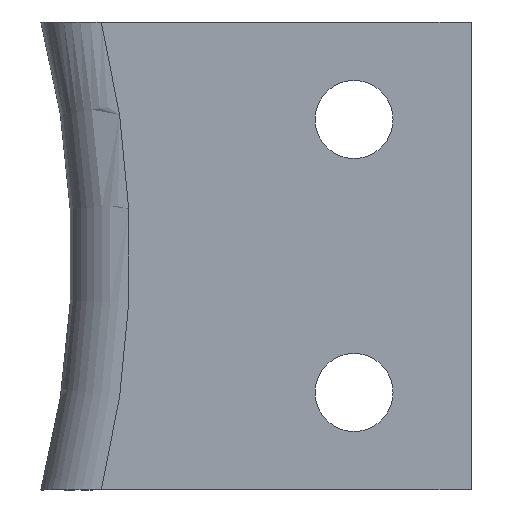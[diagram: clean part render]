
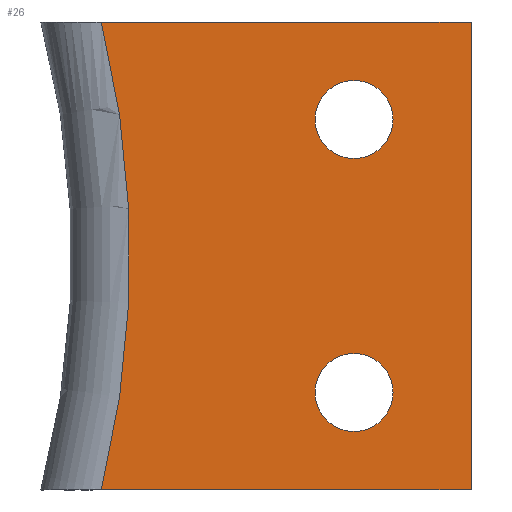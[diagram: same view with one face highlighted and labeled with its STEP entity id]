
A CAD part, front view. The second image highlights one B-rep face of the part: STEP entity #26.
In plain terms, the highlighted planar face has unit normal (0, -1, 0).
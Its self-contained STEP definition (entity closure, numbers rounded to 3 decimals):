
#19 = EDGE_CURVE ( 'NONE', #305, #308, #173, .T. ) ;
#24 = EDGE_CURVE ( 'NONE', #319, #322, #431, .T. ) ;
#25 = EDGE_LOOP ( 'NONE', ( #53, #46, #51, #38 ) ) ;
#26 = ADVANCED_FACE ( 'NONE', ( #426, #425, #424 ), #423, .F. ) ;
#31 = EDGE_LOOP ( 'NONE', ( #32, #66 ) ) ;
#32 = ORIENTED_EDGE ( 'NONE', *, *, #307, .T. ) ;
#38 = ORIENTED_EDGE ( 'NONE', *, *, #39, .F. ) ;
#39 = EDGE_CURVE ( 'NONE', #65, #239, #532, .T. ) ;
#40 = ORIENTED_EDGE ( 'NONE', *, *, #321, .T. ) ;
#41 = ORIENTED_EDGE ( 'NONE', *, *, #24, .T. ) ;
#46 = ORIENTED_EDGE ( 'NONE', *, *, #52, .F. ) ;
#51 = ORIENTED_EDGE ( 'NONE', *, *, #241, .T. ) ;
#52 = EDGE_CURVE ( 'NONE', #232, #55, #518, .T. ) ;
#53 = ORIENTED_EDGE ( 'NONE', *, *, #54, .F. ) ;
#54 = EDGE_CURVE ( 'NONE', #55, #65, #497, .T. ) ;
#55 = VERTEX_POINT ( 'NONE', #493 ) ;
#61 = EDGE_LOOP ( 'NONE', ( #40, #41 ) ) ;
#65 = VERTEX_POINT ( 'NONE', #464 ) ;
#66 = ORIENTED_EDGE ( 'NONE', *, *, #19, .T. ) ;
#170 = DIRECTION ( 'NONE',  ( 0., 0., -1. ) ) ;
#171 = DIRECTION ( 'NONE',  ( 0., 1., 0. ) ) ;
#172 = AXIS2_PLACEMENT_3D ( 'NONE', #180, #171, #170 ) ;
#173 = CIRCLE ( 'NONE', #172, 2. ) ;
#180 = CARTESIAN_POINT ( 'NONE',  ( 11.5, 0., -7. ) ) ;
#232 = VERTEX_POINT ( 'NONE', #743 ) ;
#239 = VERTEX_POINT ( 'NONE', #714 ) ;
#241 = EDGE_CURVE ( 'NONE', #232, #239, #689, .T. ) ;
#305 = VERTEX_POINT ( 'NONE', #563 ) ;
#307 = EDGE_CURVE ( 'NONE', #308, #305, #838, .T. ) ;
#308 = VERTEX_POINT ( 'NONE', #804 ) ;
#319 = VERTEX_POINT ( 'NONE', #805 ) ;
#321 = EDGE_CURVE ( 'NONE', #322, #319, #837, .T. ) ;
#322 = VERTEX_POINT ( 'NONE', #832 ) ;
#419 = DIRECTION ( 'NONE',  ( -1., 0., 0. ) ) ;
#420 = DIRECTION ( 'NONE',  ( 0., 1., 0. ) ) ;
#421 = CARTESIAN_POINT ( 'NONE',  ( 17.615, 0., 18.117 ) ) ;
#422 = AXIS2_PLACEMENT_3D ( 'NONE', #421, #420, #419 ) ;
#423 = PLANE ( 'NONE',  #422 ) ;
#424 = FACE_BOUND ( 'NONE', #31, .T. ) ;
#425 = FACE_OUTER_BOUND ( 'NONE', #25, .T. ) ;
#426 = FACE_BOUND ( 'NONE', #61, .T. ) ;
#427 = DIRECTION ( 'NONE',  ( 0., 0., 1. ) ) ;
#428 = DIRECTION ( 'NONE',  ( 0., 1., 0. ) ) ;
#429 = CARTESIAN_POINT ( 'NONE',  ( 11.5, 0., 7. ) ) ;
#430 = AXIS2_PLACEMENT_3D ( 'NONE', #429, #428, #427 ) ;
#431 = CIRCLE ( 'NONE', #430, 2. ) ;
#464 = CARTESIAN_POINT ( 'NONE',  ( 17.5, 0., -12. ) ) ;
#493 = CARTESIAN_POINT ( 'NONE',  ( 17.5, 0., 12. ) ) ;
#494 = DIRECTION ( 'NONE',  ( 0., 0., -1. ) ) ;
#495 = VECTOR ( 'NONE', #494, 1000. ) ;
#496 = CARTESIAN_POINT ( 'NONE',  ( 17.5, 0., -12. ) ) ;
#497 = LINE ( 'NONE', #496, #495 ) ;
#513 = DIRECTION ( 'NONE',  ( 1., 0., 0. ) ) ;
#514 = VECTOR ( 'NONE', #513, 1000. ) ;
#515 = CARTESIAN_POINT ( 'NONE',  ( -5., 0., 12. ) ) ;
#518 = LINE ( 'NONE', #515, #514 ) ;
#529 = DIRECTION ( 'NONE',  ( -1., 0., 0. ) ) ;
#530 = VECTOR ( 'NONE', #529, 1000. ) ;
#531 = CARTESIAN_POINT ( 'NONE',  ( -5., 0., -12. ) ) ;
#532 = LINE ( 'NONE', #531, #530 ) ;
#563 = CARTESIAN_POINT ( 'NONE',  ( 11.5, 0., -5. ) ) ;
#675 = DIRECTION ( 'NONE',  ( -1., 0., 0. ) ) ;
#686 = DIRECTION ( 'NONE',  ( 0., 1., 0. ) ) ;
#687 = CARTESIAN_POINT ( 'NONE',  ( -50., 0., 0. ) ) ;
#688 = AXIS2_PLACEMENT_3D ( 'NONE', #687, #686, #675 ) ;
#689 = CIRCLE ( 'NONE', #688, 50. ) ;
#714 = CARTESIAN_POINT ( 'NONE',  ( -1.461, 0., -12. ) ) ;
#743 = CARTESIAN_POINT ( 'NONE',  ( -1.461, 0., 12. ) ) ;
#801 = AXIS2_PLACEMENT_3D ( 'NONE', #803, #839, #802 ) ;
#802 = DIRECTION ( 'NONE',  ( 0., 0., -1. ) ) ;
#803 = CARTESIAN_POINT ( 'NONE',  ( 11.5, 0., -7. ) ) ;
#804 = CARTESIAN_POINT ( 'NONE',  ( 11.5, 0., -9. ) ) ;
#805 = CARTESIAN_POINT ( 'NONE',  ( 11.5, 0., 9. ) ) ;
#832 = CARTESIAN_POINT ( 'NONE',  ( 11.5, 0., 5. ) ) ;
#833 = DIRECTION ( 'NONE',  ( 0., 0., 1. ) ) ;
#834 = DIRECTION ( 'NONE',  ( 0., 1., 0. ) ) ;
#835 = CARTESIAN_POINT ( 'NONE',  ( 11.5, 0., 7. ) ) ;
#836 = AXIS2_PLACEMENT_3D ( 'NONE', #835, #834, #833 ) ;
#837 = CIRCLE ( 'NONE', #836, 2. ) ;
#838 = CIRCLE ( 'NONE', #801, 2. ) ;
#839 = DIRECTION ( 'NONE',  ( 0., 1., 0. ) ) ;
